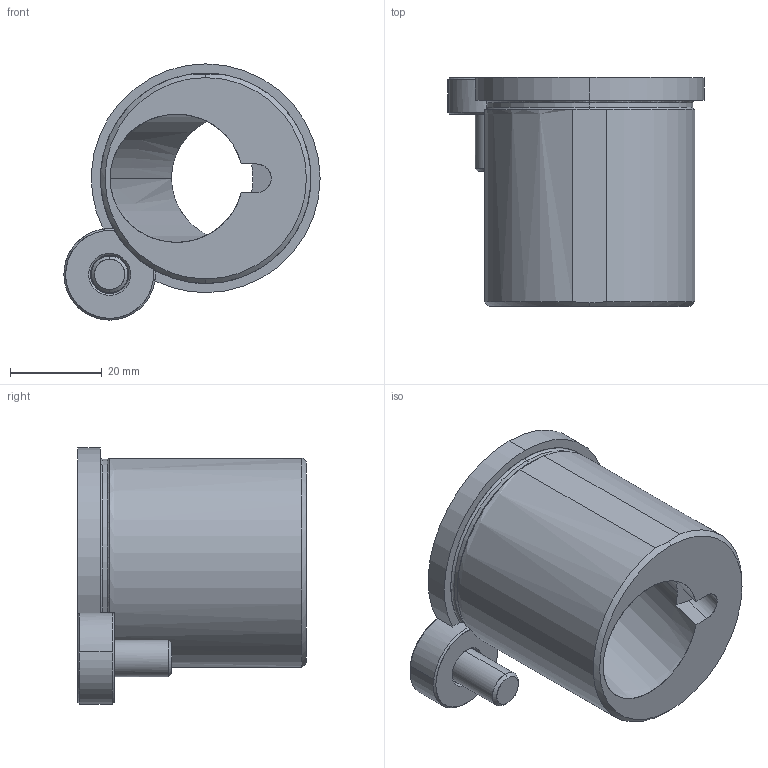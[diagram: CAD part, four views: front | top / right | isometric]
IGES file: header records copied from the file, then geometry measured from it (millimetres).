
Start section: START RECORD GO HERE.
Global section: file name: gr465050-15.igs; native system: DASSAULT SYSTEMES CATIA V5 R20 - www.3ds.com; preprocessor: CATIA Version 5 Release 20 ; author: Utente; organization: NB04-ASUS; date: 20201108.075615; units: millimetre
Bounding box: 55.99 x 50 x 55.99 mm (x, y, z)
Surface area: 16721.7 mm2 (no closed solid volume)
Topology: 0 solids, 0 shells, 75 faces, 342 edges, 340 vertices
Faces by surface type: revolution 50, plane 25
